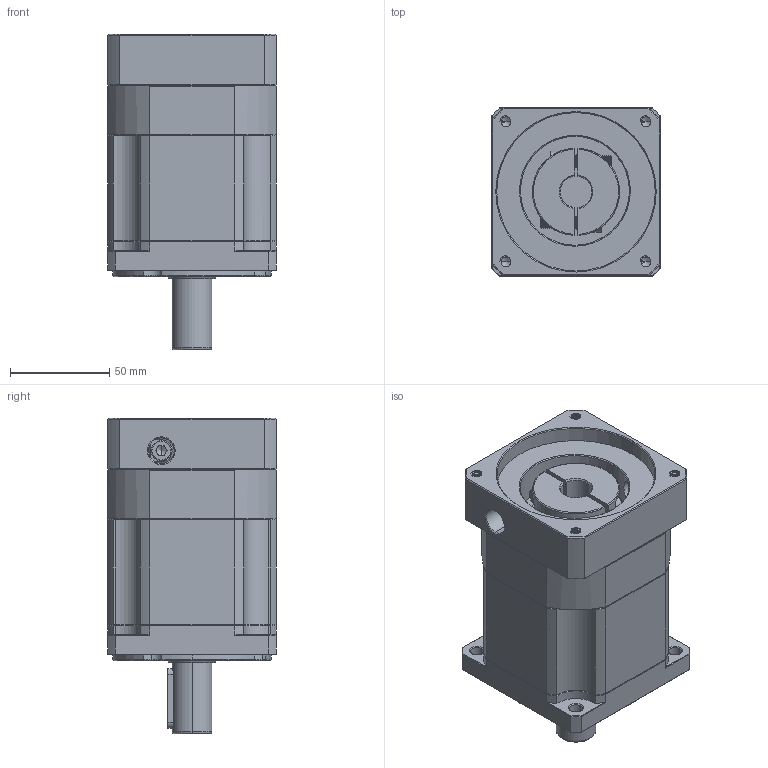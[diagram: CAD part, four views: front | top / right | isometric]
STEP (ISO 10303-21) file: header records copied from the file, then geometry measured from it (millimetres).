
FILE_DESCRIPTION (( 'STEP AP214' ), '1' );
FILE_NAME ('ZB090-D20-L2-P2-16-80-100-M6.step', '2023-08-18T12:10:20', ( '' ), ( '' ), 'SwSTEP 2.0', 'SolidWorks 2016', '' );
FILE_SCHEMA (( 'AUTOMOTIVE_DESIGN' ));
Length unit declared in the file: millimetre
Products named in the file (1): ZB090-D20-L2-P2-16-80-100-M6
Bounding box: 85 x 85 x 159.5 mm (x, y, z)
Volume: 720275.7 mm3; surface area: 92210.6 mm2
Topology: 4 solids, 5 shells, 2219 faces, 5885 edges, 3751 vertices
Faces by surface type: plane 1066, bspline 397, cylinder 396, cone 333, torus 27
Entity records: 120599 total; most frequent: CARTESIAN_POINT 44536, ORIENTED_EDGE 11726, DIRECTION 9169, EDGE_CURVE 5863, VERTEX_POINT 3751, VECTOR 3723, LINE 3723, AXIS2_PLACEMENT_3D 2723
